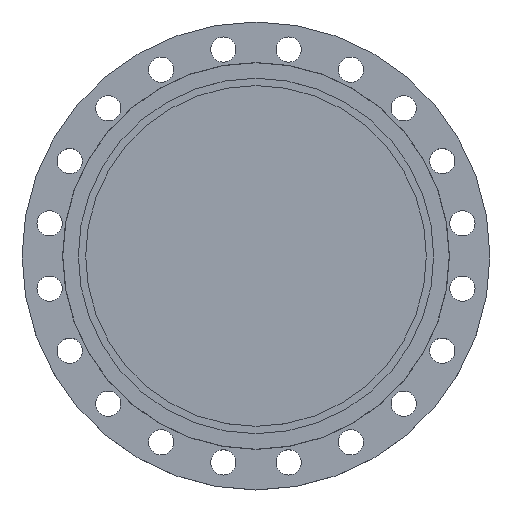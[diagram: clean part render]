
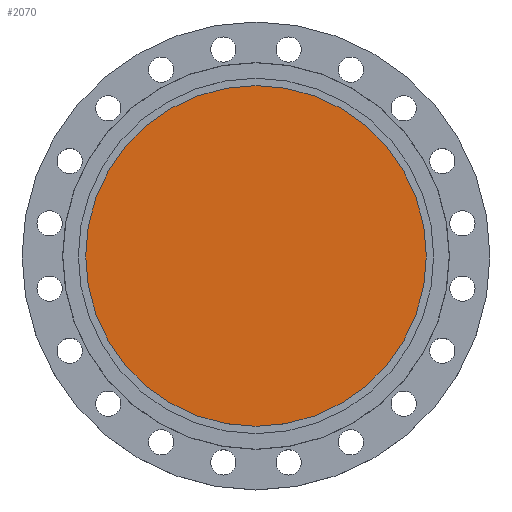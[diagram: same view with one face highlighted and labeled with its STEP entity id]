
A CAD part, top view. The second image highlights one B-rep face of the part: STEP entity #2070.
In plain terms, the highlighted planar face has unit normal (0, 0, 1).
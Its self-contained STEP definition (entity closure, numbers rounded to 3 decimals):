
#257 = EDGE_CURVE ( 'NONE', #1614, #1564, #282, .T. ) ;
#273 = AXIS2_PLACEMENT_3D ( 'NONE', #1988, #1986, #1985 ) ;
#282 = CIRCLE ( 'NONE', #273, 324. ) ;
#348 = DIRECTION ( 'NONE',  ( 1., 0., 0. ) ) ;
#349 = DIRECTION ( 'NONE',  ( 0., 0., 1. ) ) ;
#350 = CARTESIAN_POINT ( 'NONE',  ( 0., 0., 0. ) ) ;
#352 = PLANE ( 'NONE',  #1482 ) ;
#353 = FACE_OUTER_BOUND ( 'NONE', #1555, .T. ) ;
#417 = DIRECTION ( 'NONE',  ( -1., 0., 0. ) ) ;
#418 = DIRECTION ( 'NONE',  ( 0., 0., -1. ) ) ;
#419 = CARTESIAN_POINT ( 'NONE',  ( 0., 0., 0. ) ) ;
#625 = CARTESIAN_POINT ( 'NONE',  ( 324., 0., 0. ) ) ;
#694 = CARTESIAN_POINT ( 'NONE',  ( -324., 0., 0. ) ) ;
#1389 = CIRCLE ( 'NONE', #1391, 324. ) ;
#1391 = AXIS2_PLACEMENT_3D ( 'NONE', #419, #418, #417 ) ;
#1482 = AXIS2_PLACEMENT_3D ( 'NONE', #350, #349, #348 ) ;
#1555 = EDGE_LOOP ( 'NONE', ( #1593, #1604 ) ) ;
#1564 = VERTEX_POINT ( 'NONE', #694 ) ;
#1593 = ORIENTED_EDGE ( 'NONE', *, *, #1983, .F. ) ;
#1604 = ORIENTED_EDGE ( 'NONE', *, *, #257, .F. ) ;
#1614 = VERTEX_POINT ( 'NONE', #625 ) ;
#1983 = EDGE_CURVE ( 'NONE', #1564, #1614, #1389, .T. ) ;
#1985 = DIRECTION ( 'NONE',  ( -1., 0., 0. ) ) ;
#1986 = DIRECTION ( 'NONE',  ( 0., 0., -1. ) ) ;
#1988 = CARTESIAN_POINT ( 'NONE',  ( 0., 0., 0. ) ) ;
#2070 = ADVANCED_FACE ( 'NONE', ( #353 ), #352, .T. ) ;
